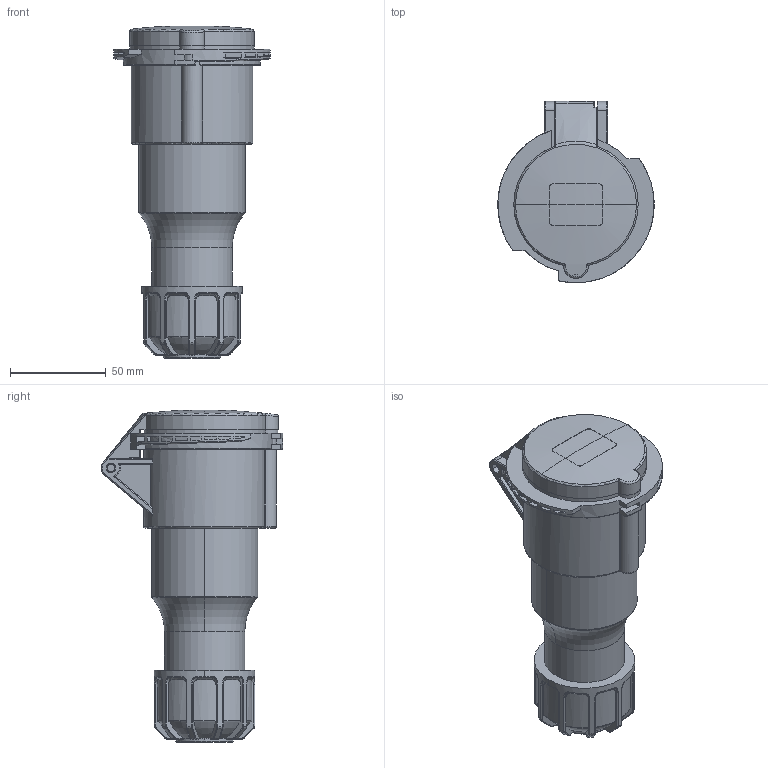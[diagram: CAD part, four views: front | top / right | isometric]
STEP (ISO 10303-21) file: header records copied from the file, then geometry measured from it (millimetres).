
FILE_DESCRIPTION(('FreeCAD Model'),'2;1');
FILE_NAME('Open CASCADE Shape Model','2026-02-04T10:53:01',(''),(''), 'Open CASCADE STEP processor 7.8','FreeCAD','Unknown');
FILE_SCHEMA(('AUTOMOTIVE_DESIGN { 1 0 10303 214 1 1 1 1 }'));
Length unit declared in the file: millimetre
Products named in the file (4): TL3T32432; Corpo tomada; Prensa cabo; Tampa
Assembly tree (3 placements, depth 2):
  TL3T32432
    Corpo tomada
    Prensa cabo
    Tampa
Bounding box: 81.7 x 94.92 x 173.58 mm (x, y, z)
Volume: 402001.1 mm3; surface area: 65613.3 mm2
Topology: 3 solids, 8 shells, 638 faces, 1632 edges, 1028 vertices
Faces by surface type: cylinder 209, plane 207, bspline 128, torus 69, cone 20, sphere 5
Full cylindrical faces by diameter (mm): 42 x1
Entity records: 30208 total; most frequent: CARTESIAN_POINT 15823, ORIENTED_EDGE 3260, DIRECTION 2642, EDGE_CURVE 1630, AXIS2_PLACEMENT_3D 1028, VERTEX_POINT 1028, FACE_BOUND 664, EDGE_LOOP 664
